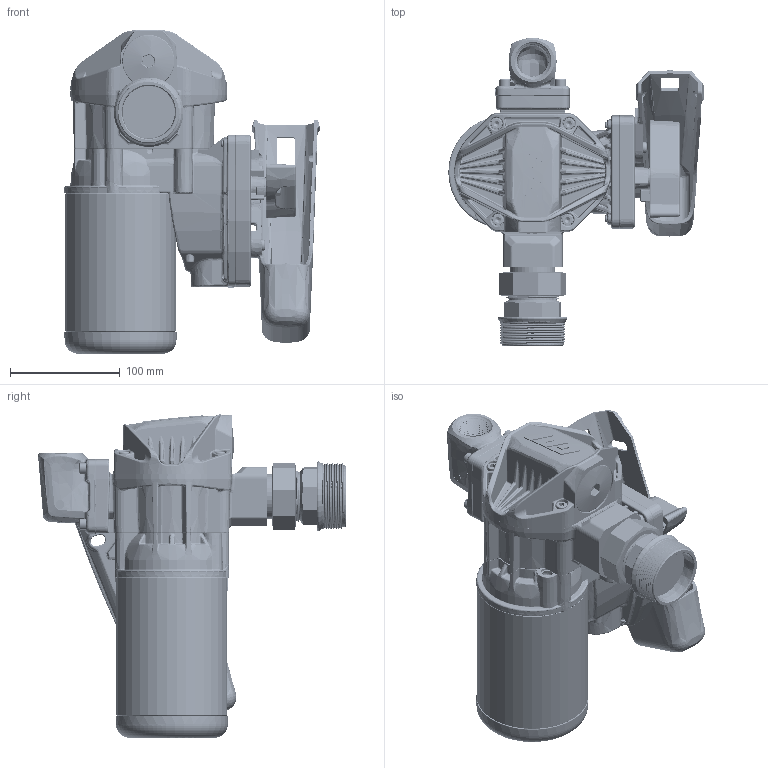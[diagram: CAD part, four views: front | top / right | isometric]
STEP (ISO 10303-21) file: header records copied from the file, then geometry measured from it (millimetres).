
FILE_DESCRIPTION(/* description */ (''),/* implementation_level */ '2;1');
FILE_NAME(/* name */ 'C:\Vault Projects\GPI Eng\New Projects\DHarris\Website model updates\STEP\G20-012PX.stp',/* time_stamp */ '2022-07-20T12:19:32-05:00',/* author */ ('gdanhar'),/* organization */ (''),/* preprocessor_version */ 'ST-DEVELOPER v18.1',/* originating_system */ 'Autodesk Inventor 2022',/* authorisation */ '');
FILE_SCHEMA (('AUTOMOTIVE_DESIGN { 1 0 10303 214 3 1 1 }'));
Length unit declared in the file: inch
Products named in the file (1): G20-012PX
Bounding box: 232.77 x 280.8 x 295.08 mm (x, y, z)
Volume: 3534529.5 mm3; surface area: 367385.1 mm2
Topology: 1 solids, 7 shells, 6878 faces, 17329 edges, 10518 vertices
Faces by surface type: bspline 2977, plane 1968, cylinder 1077, torus 390, cone 376, sphere 90
Full cylindrical faces by diameter (mm): 3.68 x1, 5 x5, 5.004 x1, 6 x31, 6.082 x13, 7 x4, 7.806 x4, 8 x2, 9.525 x6, 10 x11, 10.5 x2, 11.989 x2, 12 x1, 12.706 x1, 14.986 x1, 16.739 x1, 21.946 x1, 41.25 x1, 47.625 x1, 48.26 x1, 50.8 x1, 56.733 x7, 56.744 x1, 59.914 x7, 101.6 x1
Entity records: 443748 total; most frequent: CARTESIAN_POINT 291163, ORIENTED_EDGE 34378, DIRECTION 23587, EDGE_CURVE 17189, VERTEX_POINT 10518, AXIS2_PLACEMENT_3D 8628, EDGE_LOOP 7163, FACE_OUTER_BOUND 6878
